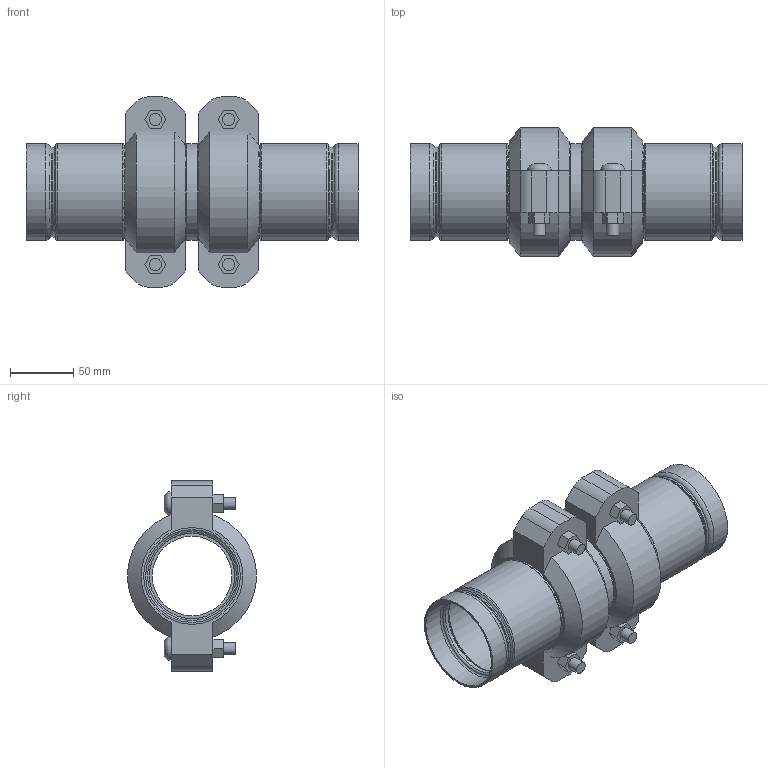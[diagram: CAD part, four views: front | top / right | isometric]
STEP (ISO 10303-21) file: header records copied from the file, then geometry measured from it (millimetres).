
FILE_DESCRIPTION(/* description */ ('VIC STRENGTHIN 100 EXPANSION JOINT 2 COUPLINGS COMPRESSED STYLE E155 (ST1)','CAx-IF Rec.Pracs.---Representation and Presentation of Product Manufacturing Information (PMI)---4.0---2014-10-13'),/* implementation_level */ '2;1');
FILE_NAME(/* name */ 'C:\Users\Vjadhav\AppData\Roaming\Autodesk\ApplicationPlugins\Victaulic.Temp\A523\Victaulic_SS-StrengThin 100_Expansion Joint_Compressed_2 Couplings_Style E155 (ST1)_02.5 (76.1) (65).stp',/* time_stamp */ '2021-07-23T12:29:02+06:00',/* author */ ('kkamble'),/* organization */ ('Victaulic'),/* preprocessor_version */ 'ST-DEVELOPER v17.2',/* originating_system */ 'Autodesk Inventor 2019',/* authorisation */ '');
FILE_SCHEMA (('AP242_MANAGED_MODEL_BASED_3D_ENGINEERING_MIM_LF { 1 0 10303 442 1 1 4 }'));
Length unit declared in the file: inch
Products named in the file (4): E155-02.5 (76.1); E494G-02.5 (76.1); Nipple-02.5 (76.1); 075-02.5 (76.1)
Assembly tree (5 placements, depth 2):
  E155-02.5 (76.1)
    E494G-02.5 (76.1)  x2
    Nipple-02.5 (76.1)
    075-02.5 (76.1)  x2
Bounding box: 261.62 x 101.25 x 149.86 mm (x, y, z)
Volume: 596194.5 mm3; surface area: 217978.1 mm2
Topology: 5 solids, 9 shells, 186 faces, 514 edges, 366 vertices
Faces by surface type: plane 86, cylinder 52, torus 32, cone 12, bspline 4
Full cylindrical faces by diameter (mm): 9.525 x8, 11.43 x4, 62.713 x1, 67.158 x2, 69.063 x2, 70.358 x2, 72.263 x4, 73 x6, 76.2 x11
Entity records: 3649 total; most frequent: CARTESIAN_POINT 669, DIRECTION 637, ORIENTED_EDGE 544, EDGE_CURVE 272, AXIS2_PLACEMENT_3D 269, VERTEX_POINT 195, CIRCLE 163, EDGE_LOOP 121
